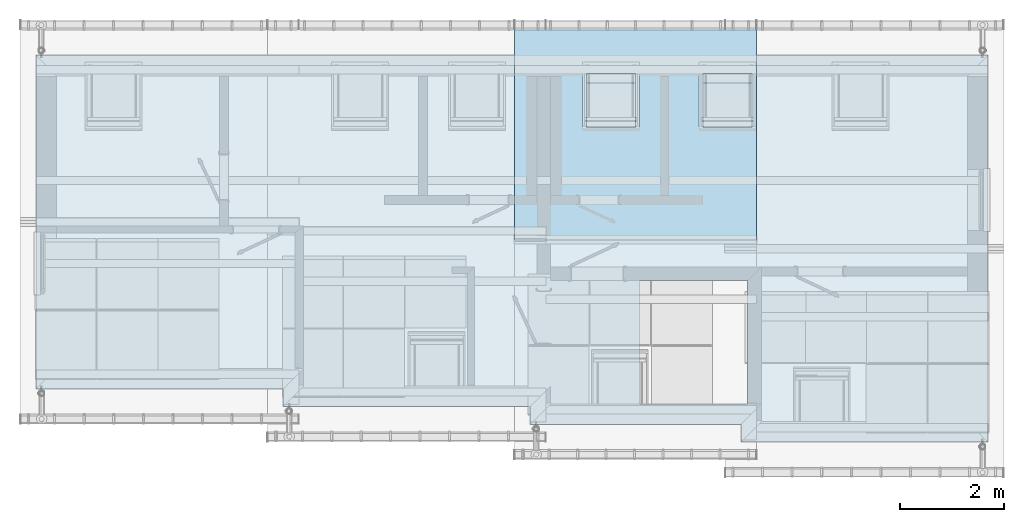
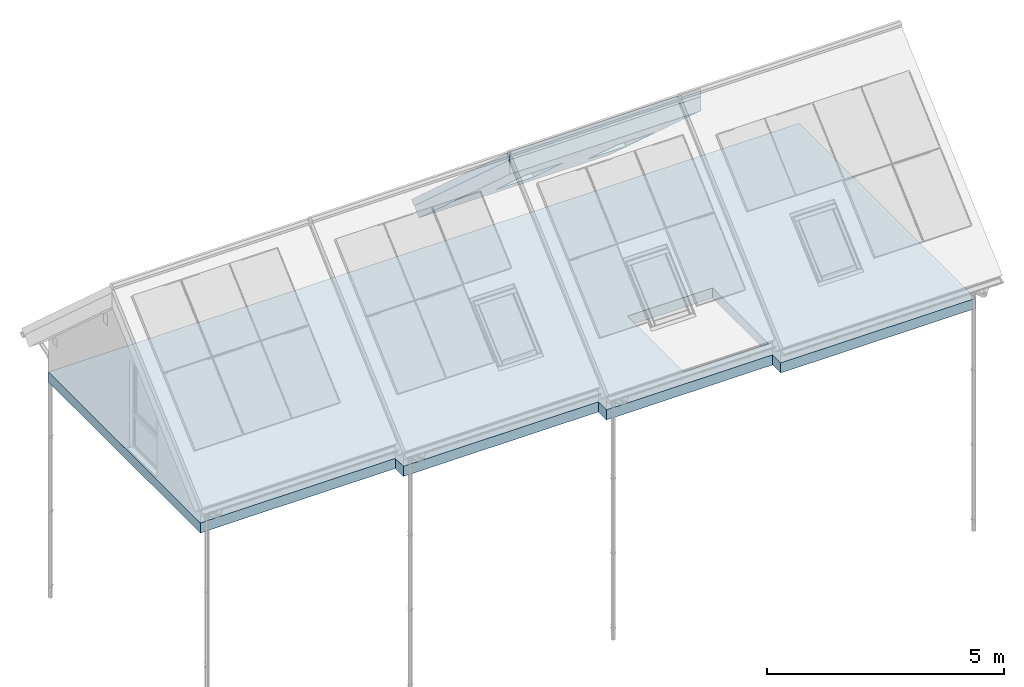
# One storey, part 4 of 43: 3 slabs, 5 openings, 1 element without a shape of its own.
"""IFC2X3 building model written with IfcOpenShell, lengths in millimetres."""

from ifc_helpers import new_model, si_unit, frame, origin_with_axes, place, context, project, spatial, faceted_brep, element, aggregate, save


model = new_model("IFC2X3")

# Units and contexts
model_context = context("Model", 3, world=origin_with_axes())
ifc_project = project(units=[si_unit("LENGTHUNIT", "METRE", prefix="MILLI")], contexts=[model_context])

# Site, building, storey
site_placement = place(None, origin_with_axes())
site = spatial("IfcSite", under=ifc_project, at=site_placement, Name="Site", CompositionType="ELEMENT")
building_placement = place(site_placement, origin_with_axes())
building = spatial("IfcBuilding", under=site, at=building_placement, Name="?", CompositionType="ELEMENT")
storey_placement = place(building_placement, frame((0.0, 0.0, 5938.0), z_axis=(0.0, 0.0, 1.0), x_axis=(1.0, 0.0, 0.0)))
storey = spatial("IfcBuildingStorey", under=building, at=storey_placement, Name="Dachgeschoß", CompositionType="ELEMENT", Elevation=5938.0)

# Slab, opening
slab_1_placement = place(storey_placement, frame((0.0, 0.0, -262.0), z_axis=(0.0, 0.0, 1.0), x_axis=(1.0, 0.0, 0.0)))
slab_1 = element("IfcSlab", 1, at=slab_1_placement, inside=storey, Name="DE", PredefinedType="FLOOR", context=model_context, shape_type="Brep", body=[
    faceted_brep([(0.0, -6415.0, 0.0), (0.0, 0.0, 0.0), (18300.0, 0.0, 0.0), (18300.0, -7440.0, 0.0), (13550.0, -7440.0, 0.0), (13550.0, -7098.0, 0.0), (9500.0, -7098.0, 0.0), (9500.0, -6756.0, 0.0), (4750.0, -6756.0, 0.0), (4750.0, -6415.0, 0.0), (0.0, -6415.0, 262.0), (4750.0, -6415.0, 262.0), (4750.0, -6756.0, 262.0), (9500.0, -6756.0, 262.0), (9500.0, -7098.0, 262.0), (13550.0, -7098.0, 262.0), (13550.0, -7440.0, 262.0), (18300.0, -7440.0, 262.0), (18300.0, 0.0, 262.0), (0.0, 0.0, 262.0), (9500.0, -6756.0, 0.0), (9500.0, -6756.0, 262.0), (4750.0, -6756.0, 262.0), (4750.0, -6756.0, 0.0), (13550.0, -7440.0, 0.0), (13550.0, -7440.0, 262.0), (13550.0, -7098.0, 262.0), (13550.0, -7098.0, 0.0), (4750.0, -6756.0, 0.0), (4750.0, -6756.0, 262.0), (4750.0, -6415.0, 262.0), (4750.0, -6415.0, 0.0), (18300.0, -7440.0, 0.0), (18300.0, -7440.0, 262.0), (13550.0, -7440.0, 262.0), (13550.0, -7440.0, 0.0), (4750.0, -6415.0, 0.0), (4750.0, -6415.0, 262.0), (0.0, -6415.0, 262.0), (0.0, -6415.0, 0.0), (18300.0, 0.0, 0.0), (18300.0, 0.0, 262.0), (18300.0, -7440.0, 262.0), (18300.0, -7440.0, 0.0), (13550.0, -7098.0, 0.0), (13550.0, -7098.0, 262.0), (9500.0, -7098.0, 262.0), (9500.0, -7098.0, 0.0), (9500.0, -7098.0, 0.0), (9500.0, -7098.0, 262.0), (9500.0, -6756.0, 262.0), (9500.0, -6756.0, 0.0), (0.0, -6415.0, 0.0), (0.0, -6415.0, 262.0), (0.0, 0.0, 262.0), (0.0, 0.0, 0.0), (0.0, 0.0, 0.0), (0.0, 0.0, 262.0), (18300.0, 0.0, 262.0), (18300.0, 0.0, 0.0)], [[[0, 1, 2, 3, 4, 5, 6, 7, 8, 9]], [[10, 11, 12, 13, 14, 15, 16, 17, 18, 19]], [[20, 21, 22, 23]], [[24, 25, 26, 27]], [[28, 29, 30, 31]], [[32, 33, 34, 35]], [[36, 37, 38, 39]], [[40, 41, 42, 43]], [[44, 45, 46, 47]], [[48, 49, 50, 51]], [[52, 53, 54, 55]], [[56, 57, 58, 59]]]),
])
opening_1_placement = place(slab_1_placement, frame((11611.0, -6703.0, 0.0), z_axis=(0.0, 0.0, 1.0), x_axis=(1.0, 0.0, 0.0)))
element("IfcOpeningElement", 2, at=opening_1_placement, cuts=slab_1, Name="DE|Treppe02", context=model_context, shape_type="Brep", body=[
    faceted_brep([(2070.0, 2370.0, 0.0), (2070.0, 0.0, 0.0), (0.0, 0.0, 0.0), (0.0, 2370.0, 0.0), (2070.0, 2370.0, 0.0), (0.0, 2370.0, 0.0), (0.0, 2370.0, 262.0), (2070.0, 2370.0, 262.0), (2070.0, 0.0, 0.0), (2070.0, 2370.0, 0.0), (2070.0, 2370.0, 262.0), (2070.0, 0.0, 262.0), (0.0, 0.0, 0.0), (2070.0, 0.0, 0.0), (2070.0, 0.0, 262.0), (0.0, 0.0, 262.0), (0.0, 2370.0, 0.0), (0.0, 0.0, 0.0), (0.0, 0.0, 262.0), (0.0, 2370.0, 262.0), (2070.0, 2370.0, 262.0), (0.0, 2370.0, 262.0), (0.0, 0.0, 262.0), (2070.0, 0.0, 262.0)], [[[0, 1, 2, 3]], [[4, 5, 6, 7]], [[8, 9, 10, 11]], [[12, 13, 14, 15]], [[16, 17, 18, 19]], [[20, 21, 22, 23]]]),
])

# Roof, slabs, openings
roof_placement = place(None, origin_with_axes())
roof = element("IfcRoof", 3, at=roof_placement, inside=storey, Name="Dach02", ShapeType="NOTDEFINED")
slab_2_placement = place(roof_placement, frame((13550.0, 0.0, 6767.55029296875), z_axis=(0.0, 0.669130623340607, 0.743144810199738), x_axis=(-1.00000000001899, 0.0, 0.0)))
slab_2 = element("IfcSlab", 4, at=slab_2_placement, Name="DAFL_Rafter", PredefinedType="ROOF", context=model_context, shape_type="Brep", body=[
    faceted_brep([(4349.99912057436, 4775.65103559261, 0.000422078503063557), (-299.999989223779, 4775.65103559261, 0.000422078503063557), (-299.999784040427, 5023.26139441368, 274.999572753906), (4349.99909777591, 5023.26139441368, 274.999572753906), (4350.00007433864, -403.690063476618, -1.39089811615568e-05), (4349.99912057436, 4775.65103559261, 0.000422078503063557), (4349.99909777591, 5023.26139441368, 274.999572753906), (4350.00009713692, -403.688960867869, 274.999572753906), (-300.008573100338, -403.690063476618, -1.39089811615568e-05), (4350.00007433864, -403.690063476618, -1.39089811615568e-05), (4350.00009713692, -403.688960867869, 274.999572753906), (-300.008778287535, -403.688960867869, 274.999572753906), (-299.999989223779, 4775.65103559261, 0.000422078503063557), (-300.008573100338, -403.690063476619, -1.39089811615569e-05), (-300.008778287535, -403.68896086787, 274.999572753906), (-299.999784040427, 5023.26139441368, 274.999572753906), (4349.99909777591, 5023.26139441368, 274.999572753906), (-299.999784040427, 5023.26139441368, 274.999572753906), (-300.008778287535, -403.688960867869, 274.999572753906), (4350.00009713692, -403.688960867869, 274.999572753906), (4349.99912057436, 4775.65103559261, 0.000422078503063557), (4350.00007433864, -403.690063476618, -1.39089811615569e-05), (-300.008573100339, -403.690063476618, -1.39089811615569e-05), (-299.99998922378, 4775.65103559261, 0.000422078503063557)], [[[0, 1, 2, 3]], [[4, 5, 6, 7]], [[8, 9, 10, 11]], [[12, 13, 14, 15]], [[16, 17, 18, 19]], [[20, 21, 22, 23]]]),
])
opening_2_placement = place(slab_2_placement, frame((-215.999999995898, 2116.30575787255, 274.999856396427), z_axis=(0.0, -1.00000000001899, 0.0), x_axis=(1.00000000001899, 0.0, 0.0)))
element("IfcOpeningElement", 5, at=opening_2_placement, cuts=slab_2, Name="DAFL_Rafter|DF04", context=model_context, shape_type="Brep", body=[
    faceted_brep([(939.998402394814, -285.000213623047, -316.529153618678), (940.000021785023, -285.000213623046, 1400.00056804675), (-0.00107959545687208, -285.000213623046, 1400.00052268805), (3.59250407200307e-11, -285.000213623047, -316.529153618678), (939.998402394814, -285.000213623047, -316.529153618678), (3.59250407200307e-11, -285.000213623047, -316.529153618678), (-0.00010303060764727, 10.0002851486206, 11.1006030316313), (939.999045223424, 10.0002851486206, 11.1006030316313), (940.000021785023, -285.000213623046, 1400.00056804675), (939.998402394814, -285.000213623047, -316.529153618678), (939.999045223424, 10.0002851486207, 11.1006030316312), (940.00035551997, 10.0002851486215, 1399.99560464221), (-0.00107959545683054, -285.000213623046, 1400.00052268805), (940.000021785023, -285.000213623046, 1400.00056804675), (940.00035551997, 10.0002851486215, 1399.99560464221), (-0.000976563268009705, 10.0002851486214, 1399.9955592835), (3.5927037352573e-11, -285.000213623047, -316.529153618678), (-0.00107959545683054, -285.000213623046, 1400.00052268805), (-0.000976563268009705, 10.0002851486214, 1399.9955592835), (-0.000103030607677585, 10.0002851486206, 11.1006030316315), (939.999045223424, 10.0002851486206, 11.1006030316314), (-0.00010303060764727, 10.0002851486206, 11.1006030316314), (-0.000976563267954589, 10.0002851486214, 1399.9955592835), (940.000355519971, 10.0002851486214, 1399.99560464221)], [[[0, 1, 2, 3]], [[4, 5, 6, 7]], [[8, 9, 10, 11]], [[12, 13, 14, 15]], [[16, 17, 18, 19]], [[20, 21, 22, 23]]]),
])
opening_3_placement = place(slab_2_placement, frame((2028.99999996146, 2116.30575787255, 274.999856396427), z_axis=(0.0, -1.00000000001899, 0.0), x_axis=(1.00000000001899, 0.0, 0.0)))
element("IfcOpeningElement", 6, at=opening_3_placement, cuts=slab_2, Name="DAFL_Rafter|DF05", context=model_context, shape_type="Brep", body=[
    faceted_brep([(940.0, -285.000213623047, -316.529153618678), (940.0, -285.000213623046, 1400.00061186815), (0.0, -285.000213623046, 1400.0005665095), (0.0, -285.000213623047, -316.529153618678), (940.0, -285.000213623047, -316.529153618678), (0.0, -285.000213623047, -316.529153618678), (0.0, 10.0002851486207, 11.1006030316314), (940.0, 10.0002851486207, 11.1006030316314), (940.0, -285.000213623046, 1400.00061186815), (940.0, -285.000213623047, -316.529153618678), (940.0, 10.0002851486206, 11.1006030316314), (940.0, 10.0002851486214, 1399.99560310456), (0.0, -285.000213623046, 1400.0005665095), (940.0, -285.000213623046, 1400.00061186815), (940.0, 10.0002851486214, 1399.99560310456), (0.0, 10.0002851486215, 1399.99555774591), (0.0, -285.000213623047, -316.529153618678), (0.0, -285.000213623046, 1400.0005665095), (0.0, 10.0002851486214, 1399.99555774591), (0.0, 10.0002851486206, 11.1006030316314), (940.0, 10.0002851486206, 11.1006030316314), (0.0, 10.0002851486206, 11.1006030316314), (0.0, 10.0002851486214, 1399.99555774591), (940.0, 10.0002851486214, 1399.99560310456)], [[[0, 1, 2, 3]], [[4, 5, 6, 7]], [[8, 9, 10, 11]], [[12, 13, 14, 15]], [[16, 17, 18, 19]], [[20, 21, 22, 23]]]),
])
slab_3_placement = place(roof_placement, frame((13550.0, 0.0, 6767.55029296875), z_axis=(0.0, 0.669130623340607, 0.743144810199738), x_axis=(-1.00000000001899, 0.0, 0.0)))
slab_3 = element("IfcSlab", 7, at=slab_3_placement, Name="DAFL_Tile", PredefinedType="ROOF", context=model_context, shape_type="Brep", body=[
    faceted_brep([(4350.00395117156, 5023.26139441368, 274.999572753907), (-300.000004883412, 5023.26139441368, 274.999572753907), (-299.999943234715, 5162.82413760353, 429.999694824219), (4350.00400049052, 5162.82413760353, 429.999694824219), (4350.00009424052, -433.696160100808, 274.999572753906), (4350.00395117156, 5023.26139441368, 274.999572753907), (4350.00400049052, 5162.82413760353, 429.999694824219), (4350.00004492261, -433.689258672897, 429.999694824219), (-300.00482604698, -433.696160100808, 274.999572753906), (4350.00009424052, -433.696160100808, 274.999572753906), (4350.00004492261, -433.689258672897, 429.999694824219), (-300.004887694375, -433.689258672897, 429.999694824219), (-300.000004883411, 5023.26139441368, 274.999572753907), (-300.00482604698, -433.696160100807, 274.999572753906), (-300.004887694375, -433.689258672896, 429.999694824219), (-299.999943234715, 5162.82413760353, 429.999694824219), (4350.00400049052, 5162.82413760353, 429.999694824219), (-299.999943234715, 5162.82413760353, 429.999694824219), (-300.004887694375, -433.689258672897, 429.999694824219), (4350.00004492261, -433.689258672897, 429.999694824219), (4350.00395117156, 5023.26139441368, 274.999572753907), (4350.00009424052, -433.696160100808, 274.999572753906), (-300.004826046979, -433.696160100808, 274.999572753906), (-300.000004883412, 5023.26139441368, 274.999572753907)], [[[0, 1, 2, 3]], [[4, 5, 6, 7]], [[8, 9, 10, 11]], [[12, 13, 14, 15]], [[16, 17, 18, 19]], [[20, 21, 22, 23]]]),
])
opening_4_placement = place(slab_3_placement, frame((-215.999999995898, 2116.30575787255, 274.999856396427), z_axis=(0.0, -1.00000000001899, 0.0), x_axis=(1.00000000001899, 0.0, 0.0)))
element("IfcOpeningElement", 8, at=opening_4_placement, cuts=slab_3, Name="DAFL_Tile|DF04", context=model_context, shape_type="Brep", body=[
    faceted_brep([(1017.0, -9.99971485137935, -126.998051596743), (1017.0, -9.99971485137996, 1549.0007726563), (-76.9970710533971, -9.99971485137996, 1549.00079816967), (-77.0000007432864, -9.99971485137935, -126.998051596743), (1017.0, -9.99971485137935, -126.998051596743), (-77.0000007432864, -9.99971485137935, -126.998051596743), (-77.0000007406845, 164.999801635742, -126.994631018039), (1017.0, 164.999801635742, -126.994631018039), (1017.0, -9.99971485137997, 1549.0007726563), (1017.0, -9.99971485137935, -126.998051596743), (1017.0, 164.999801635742, -126.994631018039), (1017.0, 164.999801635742, 1549.00392603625), (-76.9970710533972, -9.99971485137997, 1549.00079816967), (1017.0, -9.99971485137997, 1549.0007726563), (1017.0, 164.999801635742, 1549.00392603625), (-76.9970710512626, 164.999801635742, 1549.00395154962), (-77.0000007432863, -9.99971485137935, -126.998051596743), (-76.9970710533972, -9.99971485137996, 1549.00079816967), (-76.9970710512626, 164.999801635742, 1549.00395154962), (-77.0000007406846, 164.999801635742, -126.994631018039), (1017.0, 164.999801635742, -126.994631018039), (-77.0000007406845, 164.999801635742, -126.994631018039), (-76.9970710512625, 164.999801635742, 1549.00395154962), (1017.0, 164.999801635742, 1549.00392603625)], [[[0, 1, 2, 3]], [[4, 5, 6, 7]], [[8, 9, 10, 11]], [[12, 13, 14, 15]], [[16, 17, 18, 19]], [[20, 21, 22, 23]]]),
])
opening_5_placement = place(slab_3_placement, frame((2028.99999996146, 2116.30575787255, 274.999856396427), z_axis=(0.0, -1.00000000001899, 0.0), x_axis=(1.00000000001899, 0.0, 0.0)))
element("IfcOpeningElement", 9, at=opening_5_placement, cuts=slab_3, Name="DAFL_Tile|DF05", context=model_context, shape_type="Brep", body=[
    faceted_brep([(1017.0, -9.99971485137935, -126.998050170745), (1017.0, -9.99971485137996, 1549.00077427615), (-77.0009788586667, -9.99971485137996, 1549.00079978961), (-77.0000022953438, -9.99971485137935, -126.998095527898), (1017.0, -9.99971485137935, -126.998050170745), (-77.0000022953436, -9.99971485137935, -126.998095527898), (-77.0000022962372, 164.999801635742, -126.994629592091), (1017.0, 164.999801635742, -126.994584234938), (1017.0, -9.99971485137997, 1549.00077427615), (1017.0, -9.99971485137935, -126.998050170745), (1017.0, 164.999801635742, -126.994584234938), (1017.0, 164.999801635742, 1549.00389930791), (-77.0009788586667, -9.99971485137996, 1549.00079978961), (1017.0, -9.99971485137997, 1549.00077427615), (1017.0, 164.999801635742, 1549.00389930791), (-77.0009788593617, 164.999801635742, 1549.00392482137), (-77.0000022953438, -9.99971485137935, -126.998095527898), (-77.0009788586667, -9.99971485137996, 1549.00079978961), (-77.0009788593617, 164.999801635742, 1549.00392482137), (-77.0000022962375, 164.999801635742, -126.994629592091), (1017.0, 164.999801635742, -126.994584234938), (-77.0000022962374, 164.999801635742, -126.994629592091), (-77.0009788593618, 164.999801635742, 1549.00392482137), (1017.0, 164.999801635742, 1549.00389930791)], [[[0, 1, 2, 3]], [[4, 5, 6, 7]], [[8, 9, 10, 11]], [[12, 13, 14, 15]], [[16, 17, 18, 19]], [[20, 21, 22, 23]]]),
])
aggregate(roof, [slab_2, slab_3])

save(model, "model.ifc")
